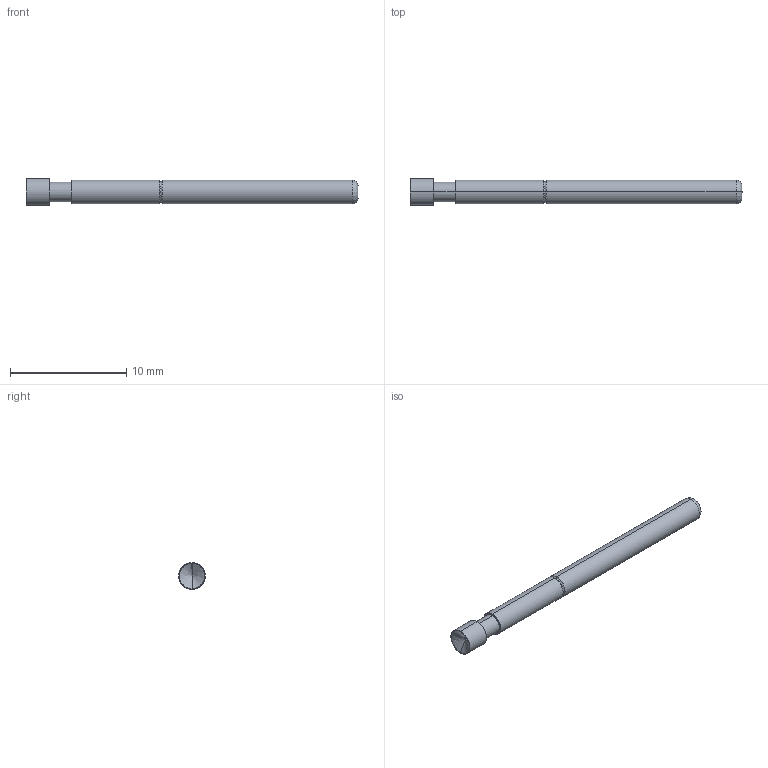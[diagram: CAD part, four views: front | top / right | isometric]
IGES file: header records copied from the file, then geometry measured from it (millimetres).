
Start section: SolidWorks IGES file using analytic representation for surfaces
Global section: file name: O:\PYLON\IGES FILES\P2665\P2665G-1V1S REC'D.IGS; native system: SolidWorks 2015; preprocessor: SolidWorks 2015; author: kgolden; date: 171019.135329; units: inch
Bounding box: 28.52 x 2.29 x 2.29 mm (x, y, z)
Surface area: 200.8 mm2 (no closed solid volume)
Topology: 0 solids, 0 shells, 22 faces, 248 edges, 246 vertices
Faces by surface type: revolution 12, bspline 10
